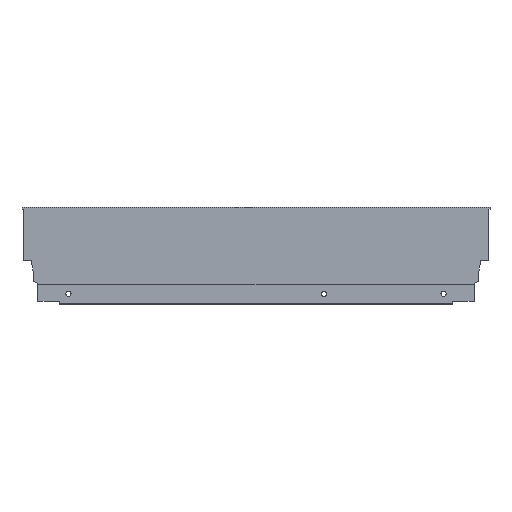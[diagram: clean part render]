
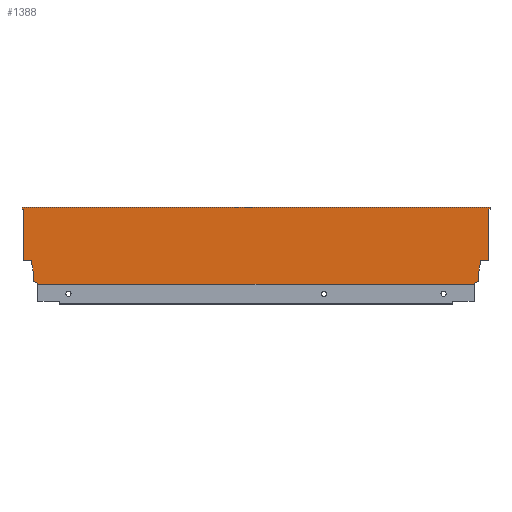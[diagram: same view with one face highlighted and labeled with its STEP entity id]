
A CAD part, top view. The second image highlights one B-rep face of the part: STEP entity #1388.
In plain terms, the highlighted planar face has unit normal (0, 0, 1).
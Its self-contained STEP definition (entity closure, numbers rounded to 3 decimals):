
#114 = VECTOR ( 'NONE', #310, 1000. ) ;
#118 = LINE ( 'NONE', #309, #114 ) ;
#131 = LINE ( 'NONE', #361, #151 ) ;
#148 = LINE ( 'NONE', #348, #152 ) ;
#151 = VECTOR ( 'NONE', #362, 1000. ) ;
#152 = VECTOR ( 'NONE', #349, 1000. ) ;
#159 = LINE ( 'NONE', #363, #181 ) ;
#162 = LINE ( 'NONE', #357, #163 ) ;
#163 = VECTOR ( 'NONE', #358, 1000. ) ;
#165 = LINE ( 'NONE', #350, #167 ) ;
#167 = VECTOR ( 'NONE', #364, 1000. ) ;
#169 = LINE ( 'NONE', #365, #170 ) ;
#170 = VECTOR ( 'NONE', #366, 1000. ) ;
#171 = LINE ( 'NONE', #367, #172 ) ;
#172 = VECTOR ( 'NONE', #368, 1000. ) ;
#173 = LINE ( 'NONE', #369, #174 ) ;
#174 = VECTOR ( 'NONE', #370, 1000. ) ;
#175 = LINE ( 'NONE', #371, #176 ) ;
#176 = VECTOR ( 'NONE', #372, 1000. ) ;
#177 = LINE ( 'NONE', #373, #178 ) ;
#178 = VECTOR ( 'NONE', #374, 1000. ) ;
#179 = LINE ( 'NONE', #375, #180 ) ;
#180 = VECTOR ( 'NONE', #376, 1000. ) ;
#181 = VECTOR ( 'NONE', #378, 1000. ) ;
#183 = LINE ( 'NONE', #379, #184 ) ;
#184 = VECTOR ( 'NONE', #380, 1000. ) ;
#185 = LINE ( 'NONE', #381, #186 ) ;
#186 = VECTOR ( 'NONE', #382, 1000. ) ;
#187 = LINE ( 'NONE', #383, #188 ) ;
#188 = VECTOR ( 'NONE', #384, 1000. ) ;
#189 = LINE ( 'NONE', #385, #190 ) ;
#190 = VECTOR ( 'NONE', #386, 1000. ) ;
#191 = LINE ( 'NONE', #387, #192 ) ;
#192 = VECTOR ( 'NONE', #388, 1000. ) ;
#195 = LINE ( 'NONE', #391, #196 ) ;
#196 = VECTOR ( 'NONE', #392, 1000. ) ;
#309 = CARTESIAN_POINT ( 'NONE',  ( 0., 0., 7.5 ) ) ;
#310 = DIRECTION ( 'NONE',  ( 0., -1., 0. ) ) ;
#348 = CARTESIAN_POINT ( 'NONE',  ( -403.94, 21.2, 7.5 ) ) ;
#349 = DIRECTION ( 'NONE',  ( -0.174, 0.985, 0. ) ) ;
#350 = CARTESIAN_POINT ( 'NONE',  ( -411., 0., 7.5 ) ) ;
#357 = CARTESIAN_POINT ( 'NONE',  ( -412., 66.5, 7.5 ) ) ;
#358 = DIRECTION ( 'NONE',  ( 0., 1., 0. ) ) ;
#361 = CARTESIAN_POINT ( 'NONE',  ( -411., 0., 7.5 ) ) ;
#362 = DIRECTION ( 'NONE',  ( 0., -1., 0. ) ) ;
#363 = CARTESIAN_POINT ( 'NONE',  ( 0., 21.2, 7.5 ) ) ;
#364 = DIRECTION ( 'NONE',  ( 1., 0., 0. ) ) ;
#365 = CARTESIAN_POINT ( 'NONE',  ( -402.1, 2.64, 7.5 ) ) ;
#366 = DIRECTION ( 'NONE',  ( -0.94, 0.342, 0. ) ) ;
#367 = CARTESIAN_POINT ( 'NONE',  ( -412., 66.5, 7.5 ) ) ;
#368 = DIRECTION ( 'NONE',  ( 1., 0., 0. ) ) ;
#369 = CARTESIAN_POINT ( 'NONE',  ( -8.9, 10.765, 7.5 ) ) ;
#370 = DIRECTION ( 'NONE',  ( 0., -1., 0. ) ) ;
#371 = CARTESIAN_POINT ( 'NONE',  ( -416., 21.2, 7.5 ) ) ;
#372 = DIRECTION ( 'NONE',  ( -1., 0., 0. ) ) ;
#373 = CARTESIAN_POINT ( 'NONE',  ( -7.06, 21.2, 7.5 ) ) ;
#374 = DIRECTION ( 'NONE',  ( -0.174, -0.985, 0. ) ) ;
#375 = CARTESIAN_POINT ( 'NONE',  ( -411., 68., 7.5 ) ) ;
#376 = DIRECTION ( 'NONE',  ( 1., 0., 0. ) ) ;
#378 = DIRECTION ( 'NONE',  ( -1., 0., 0. ) ) ;
#379 = CARTESIAN_POINT ( 'NONE',  ( -402.1, 10.765, 7.5 ) ) ;
#380 = DIRECTION ( 'NONE',  ( 0., 1., 0. ) ) ;
#381 = CARTESIAN_POINT ( 'NONE',  ( 1., 66.5, 7.5 ) ) ;
#382 = DIRECTION ( 'NONE',  ( -1., 0., 0. ) ) ;
#383 = CARTESIAN_POINT ( 'NONE',  ( -397.996, 1.146, 7.5 ) ) ;
#384 = DIRECTION ( 'NONE',  ( 0., 1., 0. ) ) ;
#385 = CARTESIAN_POINT ( 'NONE',  ( 1., 68., 7.5 ) ) ;
#386 = DIRECTION ( 'NONE',  ( 0., -1., 0. ) ) ;
#387 = CARTESIAN_POINT ( 'NONE',  ( -13.004, 1.146, 7.5 ) ) ;
#388 = DIRECTION ( 'NONE',  ( 0., -1., 0. ) ) ;
#391 = CARTESIAN_POINT ( 'NONE',  ( -8.9, 2.64, 7.5 ) ) ;
#392 = DIRECTION ( 'NONE',  ( -0.94, -0.342, 0. ) ) ;
#564 = FACE_OUTER_BOUND ( 'NONE', #771, .T. ) ;
#771 = EDGE_LOOP ( 'NONE', ( #902, #903, #904, #914, #915, #916, #911, #912, #913, #908, #909, #910, #905, #906, #907, #899, #900, #901 ) ) ;
#899 = ORIENTED_EDGE ( 'NONE', *, *, #1538, .F. ) ;
#900 = ORIENTED_EDGE ( 'NONE', *, *, #1572, .F. ) ;
#901 = ORIENTED_EDGE ( 'NONE', *, *, #1574, .F. ) ;
#902 = ORIENTED_EDGE ( 'NONE', *, *, #1569, .F. ) ;
#903 = ORIENTED_EDGE ( 'NONE', *, *, #1560, .F. ) ;
#904 = ORIENTED_EDGE ( 'NONE', *, *, #1565, .T. ) ;
#905 = ORIENTED_EDGE ( 'NONE', *, *, #1566, .F. ) ;
#906 = ORIENTED_EDGE ( 'NONE', *, *, #1568, .F. ) ;
#907 = ORIENTED_EDGE ( 'NONE', *, *, #1570, .F. ) ;
#908 = ORIENTED_EDGE ( 'NONE', *, *, #1563, .T. ) ;
#909 = ORIENTED_EDGE ( 'NONE', *, *, #1575, .F. ) ;
#910 = ORIENTED_EDGE ( 'NONE', *, *, #1577, .F. ) ;
#911 = ORIENTED_EDGE ( 'NONE', *, *, #1571, .F. ) ;
#912 = ORIENTED_EDGE ( 'NONE', *, *, #1564, .F. ) ;
#913 = ORIENTED_EDGE ( 'NONE', *, *, #1573, .F. ) ;
#914 = ORIENTED_EDGE ( 'NONE', *, *, #1562, .T. ) ;
#915 = ORIENTED_EDGE ( 'NONE', *, *, #1567, .F. ) ;
#916 = ORIENTED_EDGE ( 'NONE', *, *, #1556, .F. ) ;
#939 = CARTESIAN_POINT ( 'NONE',  ( -8.9, 10.765, 7.5 ) ) ;
#940 = CARTESIAN_POINT ( 'NONE',  ( -411., 66.5, 7.5 ) ) ;
#943 = CARTESIAN_POINT ( 'NONE',  ( -403.94, 21.2, 7.5 ) ) ;
#945 = CARTESIAN_POINT ( 'NONE',  ( -8.9, 2.64, 7.5 ) ) ;
#948 = CARTESIAN_POINT ( 'NONE',  ( -411., 21.2, 7.5 ) ) ;
#956 = CARTESIAN_POINT ( 'NONE',  ( 0., 21.2, 7.5 ) ) ;
#971 = CARTESIAN_POINT ( 'NONE',  ( -412., 66.5, 7.5 ) ) ;
#977 = CARTESIAN_POINT ( 'NONE',  ( -402.1, 10.765, 7.5 ) ) ;
#978 = CARTESIAN_POINT ( 'NONE',  ( -13.004, 0., 7.5 ) ) ;
#979 = CARTESIAN_POINT ( 'NONE',  ( -412., 68., 7.5 ) ) ;
#990 = CARTESIAN_POINT ( 'NONE',  ( -397.996, 0., 7.5 ) ) ;
#991 = CARTESIAN_POINT ( 'NONE',  ( -402.1, 2.64, 7.5 ) ) ;
#1021 = VERTEX_POINT ( 'NONE', #991 ) ;
#1022 = VERTEX_POINT ( 'NONE', #990 ) ;
#1033 = CARTESIAN_POINT ( 'NONE',  ( 1., 68., 7.5 ) ) ;
#1034 = VERTEX_POINT ( 'NONE', #979 ) ;
#1035 = VERTEX_POINT ( 'NONE', #978 ) ;
#1036 = VERTEX_POINT ( 'NONE', #977 ) ;
#1042 = VERTEX_POINT ( 'NONE', #971 ) ;
#1057 = VERTEX_POINT ( 'NONE', #956 ) ;
#1065 = VERTEX_POINT ( 'NONE', #948 ) ;
#1068 = VERTEX_POINT ( 'NONE', #945 ) ;
#1070 = VERTEX_POINT ( 'NONE', #943 ) ;
#1073 = VERTEX_POINT ( 'NONE', #940 ) ;
#1074 = VERTEX_POINT ( 'NONE', #939 ) ;
#1082 = VERTEX_POINT ( 'NONE', #1033 ) ;
#1088 = VERTEX_POINT ( 'NONE', #1121 ) ;
#1090 = VERTEX_POINT ( 'NONE', #1122 ) ;
#1094 = VERTEX_POINT ( 'NONE', #1126 ) ;
#1100 = VERTEX_POINT ( 'NONE', #1132 ) ;
#1104 = VERTEX_POINT ( 'NONE', #1136 ) ;
#1121 = CARTESIAN_POINT ( 'NONE',  ( 1., 66.5, 7.5 ) ) ;
#1122 = CARTESIAN_POINT ( 'NONE',  ( 0., 66.5, 7.5 ) ) ;
#1126 = CARTESIAN_POINT ( 'NONE',  ( -397.996, 1.146, 7.5 ) ) ;
#1132 = CARTESIAN_POINT ( 'NONE',  ( -13.004, 1.146, 7.5 ) ) ;
#1136 = CARTESIAN_POINT ( 'NONE',  ( -7.06, 21.2, 7.5 ) ) ;
#1221 = PLANE ( 'NONE',  #1483 ) ;
#1224 = CARTESIAN_POINT ( 'NONE',  ( -411., 0., 7.5 ) ) ;
#1230 = DIRECTION ( 'NONE',  ( 0., 0., 1. ) ) ;
#1231 = DIRECTION ( 'NONE',  ( 1., 0., 0. ) ) ;
#1388 = ADVANCED_FACE ( 'NONE', ( #564 ), #1221, .T. ) ;
#1483 = AXIS2_PLACEMENT_3D ( 'NONE', #1224, #1230, #1231 ) ;
#1538 = EDGE_CURVE ( 'NONE', #1090, #1057, #118, .T. ) ;
#1556 = EDGE_CURVE ( 'NONE', #1036, #1070, #148, .T. ) ;
#1560 = EDGE_CURVE ( 'NONE', #1042, #1034, #162, .T. ) ;
#1562 = EDGE_CURVE ( 'NONE', #1073, #1065, #131, .T. ) ;
#1563 = EDGE_CURVE ( 'NONE', #1022, #1035, #165, .T. ) ;
#1564 = EDGE_CURVE ( 'NONE', #1094, #1021, #169, .T. ) ;
#1565 = EDGE_CURVE ( 'NONE', #1042, #1073, #171, .T. ) ;
#1566 = EDGE_CURVE ( 'NONE', #1074, #1068, #173, .T. ) ;
#1567 = EDGE_CURVE ( 'NONE', #1070, #1065, #175, .T. ) ;
#1568 = EDGE_CURVE ( 'NONE', #1104, #1074, #177, .T. ) ;
#1569 = EDGE_CURVE ( 'NONE', #1034, #1082, #179, .T. ) ;
#1570 = EDGE_CURVE ( 'NONE', #1057, #1104, #159, .T. ) ;
#1571 = EDGE_CURVE ( 'NONE', #1021, #1036, #183, .T. ) ;
#1572 = EDGE_CURVE ( 'NONE', #1088, #1090, #185, .T. ) ;
#1573 = EDGE_CURVE ( 'NONE', #1022, #1094, #187, .T. ) ;
#1574 = EDGE_CURVE ( 'NONE', #1082, #1088, #189, .T. ) ;
#1575 = EDGE_CURVE ( 'NONE', #1100, #1035, #191, .T. ) ;
#1577 = EDGE_CURVE ( 'NONE', #1068, #1100, #195, .T. ) ;
